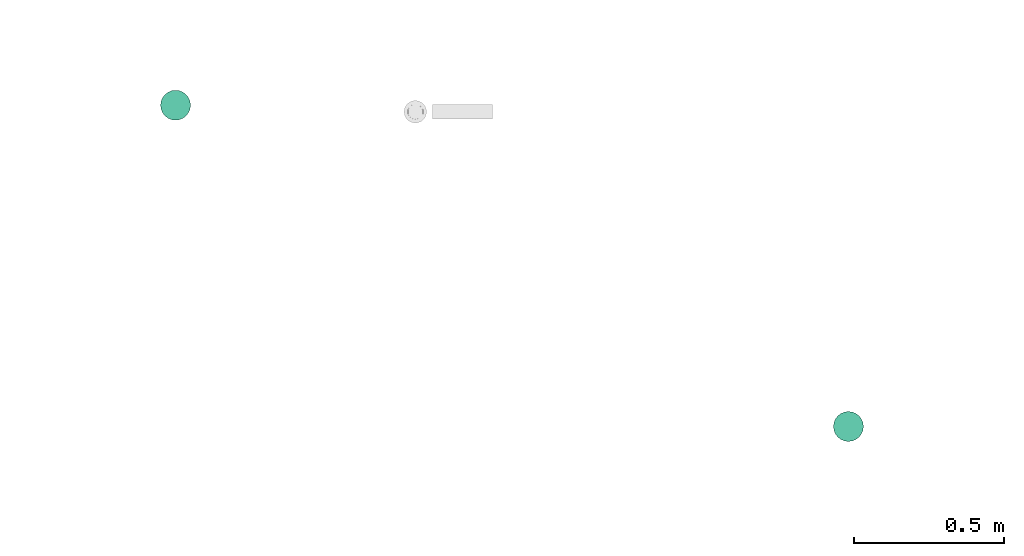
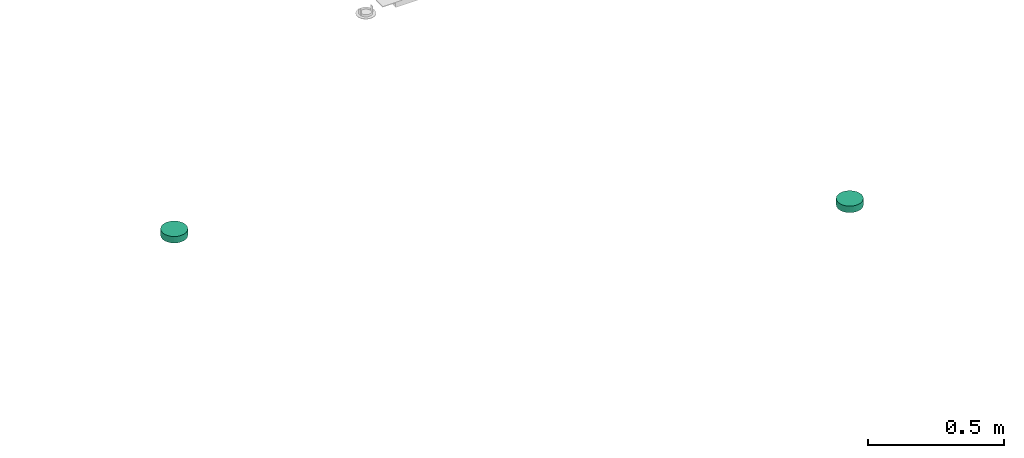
# One storey, part 4 of 7: 2 distribution control elements.
"""IFC2X3 building model written with IfcOpenShell, lengths in millimetres."""

import ifcopenshell
import ifcopenshell.guid

model = None  # the IFC model being written
_history = None  # IfcOwnerHistory: only IFC2X3 demands one
_inside = {}  # id of a spatial element -> (the spatial element, [elements in it])
_under = {}  # id of a project, library or spatial element -> (it, [spatial elements below it])
_declared = {}  # id of a project -> (the project, [libraries it declares])
_typed = {}  # id of a type object -> (the type object, [elements of that type])
_made_of = {}  # id of a material, layer set ... -> (it, [elements and type objects made of it])


def new_model(schema):
    """Start an empty IFC model of exactly this schema.

    Asked for "IFC4X3", IfcOpenShell would pick the latest addendum, in which some entities
    have other attributes; the version numbers below select the first issue.
    IFC2X3 requires an IfcOwnerHistory on every rooted entity: one is made here for all.
    """
    global model, _history
    if schema == "IFC4X3":
        model = ifcopenshell.file(schema_version=(4, 3, 0, 0))
    else:
        model = ifcopenshell.file(schema=schema)
    _inside.clear()
    _under.clear()
    _declared.clear()
    _typed.clear()
    _made_of.clear()
    _history = None
    if model.schema == "IFC2X3":
        org = make("IfcOrganization", Name="unknown")
        user = make(
            "IfcPersonAndOrganization",
            ThePerson=make("IfcPerson", FamilyName="unknown"),
            TheOrganization=org,
        )
        app = make(
            "IfcApplication",
            ApplicationDeveloper=org,
            Version="unknown",
            ApplicationFullName="unknown",
            ApplicationIdentifier="unknown",
        )
        _history = make(
            "IfcOwnerHistory",
            OwningUser=user,
            OwningApplication=app,
            ChangeAction="ADDED",
            CreationDate=0,
        )
    return model


def make(cls, **values):
    """One entity of the class cls with the attributes given. An attribute that is None is left unset."""
    return model.create_entity(
        cls, **{name: value for name, value in values.items() if value is not None}
    )


def entity(cls, *values):
    """Any entity or typed value of the class cls, its attributes in the order of the schema. None: left unset."""
    e = model.create_entity(cls)
    for i, value in enumerate(values):
        if value is not None:
            e[i] = value
    return e


def rooted(cls, **values):
    """An entity with a GlobalId (a new one), such as an element, a storey or a relation."""
    return make(cls, GlobalId=ifcopenshell.guid.new(), OwnerHistory=_history, **values)


def si_unit(unit_type, name, prefix=None):
    """IfcSIUnit, for example si_unit("LENGTHUNIT", "METRE", prefix="MILLI")."""
    return make("IfcSIUnit", UnitType=unit_type, Prefix=prefix, Name=name)


def converted_unit(unit_type, name, factor, base, dimensions=None, offset=None):
    """IfcConversionBasedUnit, such as the inch: factor (a typed value) times the base unit."""
    return make(
        "IfcConversionBasedUnit"
        if offset is None
        else "IfcConversionBasedUnitWithOffset",
        ConversionOffset=offset,
        Dimensions=None
        if dimensions is None
        else entity("IfcDimensionalExponents", *dimensions),
        UnitType=unit_type,
        Name=name,
        ConversionFactor=make(
            "IfcMeasureWithUnit", ValueComponent=factor, UnitComponent=base
        ),
    )


def derived_unit(unit_type, elements):
    """IfcDerivedUnit: a product of units, each with its exponent."""
    return make(
        "IfcDerivedUnit",
        Elements=[
            make("IfcDerivedUnitElement", Unit=unit, Exponent=power)
            for unit, power in elements
        ],
        UnitType=unit_type,
    )


def assignment(units):
    """IfcUnitAssignment: the units of a project."""
    return None if units is None else make("IfcUnitAssignment", Units=units)


def point(xyz):
    """IfcCartesianPoint."""
    return None if xyz is None else make("IfcCartesianPoint", Coordinates=xyz)


def direction(xyz):
    """IfcDirection."""
    return None if xyz is None else make("IfcDirection", DirectionRatios=xyz)


def frame(location, z_axis=None, x_axis=None):
    """IfcAxis2Placement3D, a coordinate frame: its origin and axes. An axis left out is left unset."""
    return make(
        "IfcAxis2Placement3D",
        Location=point(location),
        Axis=direction(z_axis),
        RefDirection=direction(x_axis),
    )


def origin_with_axes():
    """The frame at (0, 0, 0) with the z axis (0, 0, 1) and the x axis (1, 0, 0) written out."""
    return frame((0.0, 0.0, 0.0), z_axis=(0.0, 0.0, 1.0), x_axis=(1.0, 0.0, 0.0))


def place(relative_to, where):
    """IfcLocalPlacement: puts the frame where relative to a parent placement (None: the world)."""
    return make(
        "IfcLocalPlacement", PlacementRelTo=relative_to, RelativePlacement=where
    )


def context(
    kind, dimensions, precision=None, world=None, true_north=None, identifier=None
):
    """IfcGeometricRepresentationContext, for example the 3D "Model" context."""
    return make(
        "IfcGeometricRepresentationContext",
        ContextIdentifier=identifier,
        ContextType=kind,
        CoordinateSpaceDimension=dimensions,
        Precision=precision,
        WorldCoordinateSystem=world,
        TrueNorth=true_north,
    )


def subcontext(parent, identifier, kind, view, scale=None):
    """IfcGeometricRepresentationSubContext, for example "Body" below "Model"."""
    return make(
        "IfcGeometricRepresentationSubContext",
        ContextIdentifier=identifier,
        ContextType=kind,
        ParentContext=parent,
        TargetScale=scale,
        TargetView=view,
    )


def project(units=None, contexts=None):
    """IfcProject with its units and contexts."""
    return rooted(
        "IfcProject",
        Name="project",
        RepresentationContexts=contexts,
        UnitsInContext=assignment(units),
    )


def spatial(cls, under=None, at=None, **own):
    """A site, building, storey or space (cls), placed at a placement, below another one or the project."""
    s = rooted(cls, ObjectPlacement=at, **own)
    if under is not None:
        _under.setdefault(under.id(), (under, []))[1].append(s)
    return s


def faces_of(points, faces, orient=None, outer=None):
    """IfcFace entities. A face is a list of loops; a loop is a list of indices into points, from 0.

    orient and outer hold one flag for each loop. By default every Orientation is true, the
    first loop of a face is its IfcFaceOuterBound and the others are IfcFaceBound.
    """
    made = []
    for i, loops in enumerate(faces):
        bounds = []
        for j, loop in enumerate(loops):
            is_outer = j == 0 if outer is None else outer[i][j]
            bounds.append(
                make(
                    "IfcFaceOuterBound" if is_outer else "IfcFaceBound",
                    Bound=make("IfcPolyLoop", Polygon=[points[k] for k in loop]),
                    Orientation=True if orient is None else orient[i][j],
                )
            )
        made.append(make("IfcFace", Bounds=bounds))
    return made


def open_shell(faces, orient=None, outer=None):
    """The faces of one IfcOpenShell. surface_model builds it on its shared points."""
    return ("IfcOpenShell", faces, orient, outer)


def surface_model(cls, points, shells):
    """IfcFaceBasedSurfaceModel or IfcShellBasedSurfaceModel (cls): surfaces that need not close."""
    shared = [point(p) for p in points]
    made = [make(c, CfsFaces=faces_of(shared, fs, o, b)) for c, fs, o, b in shells]
    if cls == "IfcFaceBasedSurfaceModel":
        return make(cls, FbsmFaces=made)
    return make(cls, SbsmBoundary=made)


def shape(context_of_items, identifier, shape_type, items):
    """IfcShapeRepresentation: the items that make up one representation, for example the "Body"."""
    return make(
        "IfcShapeRepresentation",
        ContextOfItems=context_of_items,
        RepresentationIdentifier=identifier,
        RepresentationType=shape_type,
        Items=items,
    )


def source(mapping_origin, context_of_items, identifier, shape_type, items):
    """IfcRepresentationMap: a shape defined once, which mapped items show again and again."""
    return make(
        "IfcRepresentationMap",
        MappingOrigin=mapping_origin,
        MappedRepresentation=shape(context_of_items, identifier, shape_type, items),
    )


def transform(
    local_origin,
    x_axis=None,
    y_axis=None,
    z_axis=None,
    scale=None,
    scale2=None,
    scale3=None,
    uniform=True,
):
    """IfcCartesianTransformationOperator3D, or its non-uniform kind. x_axis, y_axis, z_axis: its Axis1, 2, 3."""
    if uniform:
        return make(
            "IfcCartesianTransformationOperator3D",
            Axis1=direction(x_axis),
            Axis2=direction(y_axis),
            LocalOrigin=point(local_origin),
            Scale=scale,
            Axis3=direction(z_axis),
        )
    return make(
        "IfcCartesianTransformationOperator3DnonUniform",
        Axis1=direction(x_axis),
        Axis2=direction(y_axis),
        LocalOrigin=point(local_origin),
        Scale=scale,
        Axis3=direction(z_axis),
        Scale2=scale2,
        Scale3=scale3,
    )


def mapped(mapping_source, mapping_target):
    """IfcMappedItem: shows the shape of a source again, moved by a transform."""
    return make(
        "IfcMappedItem", MappingSource=mapping_source, MappingTarget=mapping_target
    )


def made_of(thing, what):
    """Note that an element or type object is made of a material, layer set ...; save() writes the relation."""
    if what is not None:
        _made_of.setdefault(what.id(), (what, []))[1].append(thing)
    return thing


def type_object(cls, material=None, **own):
    """A type object (cls), such as IfcWallType, which elements share."""
    return made_of(rooted(cls, **own), material)


def element(
    cls,
    number,
    at=None,
    inside=None,
    cuts=None,
    type_object=None,
    material=None,
    context=None,
    identifier="Body",
    shape_type=None,
    held_by="IfcProductDefinitionShape",
    body=None,
    shapes=None,
    **own,
):
    """One element of the class cls, such as IfcWall. Its Tag is "e" and its number.

    at: its placement. inside: the storey or other place that contains it. cuts: it is an
    opening in that element (IfcRelVoidsElement). A single representation is given by context,
    identifier, shape_type and body (its items); several are given by shapes. held_by: the class
    of the entity that holds the representations. save() writes the other relations.
    """
    e = rooted(cls, Tag="e%d" % number, ObjectPlacement=at, **own)
    if body is not None:
        shapes = [shape(context, identifier, shape_type, body)]
    if shapes is not None:
        e.Representation = make(held_by, Representations=shapes)
    if inside is not None:
        _inside.setdefault(inside.id(), (inside, []))[1].append(e)
    if cuts is not None:
        rooted(
            "IfcRelVoidsElement", RelatingBuildingElement=cuts, RelatedOpeningElement=e
        )
    if type_object is not None:
        _typed.setdefault(type_object.id(), (type_object, []))[1].append(e)
    return made_of(e, material)


def aggregate(whole, parts):
    """IfcRelAggregates: a whole, such as a stair, and the parts it consists of."""
    return rooted("IfcRelAggregates", RelatingObject=whole, RelatedObjects=parts)


def save(model, path):
    """Write the relations noted so far, then the file.

    IfcRelAggregates (storeys below a building ...), IfcRelContainedInSpatialStructure (elements
    in a storey), IfcRelDefinesByType, IfcRelAssociatesMaterial and IfcRelDeclares: one each for
    every whole, place, type object, material and project.
    """
    for whole, parts in _under.values():
        aggregate(whole, parts)
    for where, things in _inside.values():
        rooted(
            "IfcRelContainedInSpatialStructure",
            RelatedElements=things,
            RelatingStructure=where,
        )
    for kind, things in _typed.values():
        rooted("IfcRelDefinesByType", RelatedObjects=things, RelatingType=kind)
    for what, things in _made_of.values():
        rooted("IfcRelAssociatesMaterial", RelatedObjects=things, RelatingMaterial=what)
    for by, libraries in _declared.values():
        rooted("IfcRelDeclares", RelatingContext=by, RelatedDefinitions=libraries)
    model.write(path)


model = new_model("IFC2X3")

# Units and contexts
model_context = context("Model", 3, precision=0.01, world=frame((0.0, 4.29681676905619e-09, 0.0)), true_north=direction((4.01073788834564e-13, 1.0)))
plan_context = context("Plan", 3, precision=0.01, world=frame((0.0, 4.29681676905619e-09, 0.0)), true_north=direction((4.01073788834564e-13, 1.0)))
body_context = subcontext(model_context, "Body", "Model", "MODEL_VIEW")
ifc_project = project(units=[converted_unit("PLANEANGLEUNIT", "DEGREE", entity("IfcPositiveLengthMeasure", 0.0174532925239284), si_unit("PLANEANGLEUNIT", "RADIAN"), dimensions=[0, 0, 0, 0, 0, 0, 0]), si_unit("AREAUNIT", "SQUARE_METRE"), si_unit("LENGTHUNIT", "METRE", prefix="MILLI"), si_unit("MASSUNIT", "GRAM", prefix="KILO"), si_unit("POWERUNIT", "WATT"), si_unit("PRESSUREUNIT", "PASCAL"), si_unit("FORCEUNIT", "NEWTON", prefix="KILO"), si_unit("ELECTRICVOLTAGEUNIT", "VOLT"), si_unit("ELECTRICCURRENTUNIT", "AMPERE"), si_unit("THERMODYNAMICTEMPERATUREUNIT", "DEGREE_CELSIUS"), si_unit("TIMEUNIT", "SECOND"), si_unit("VOLUMEUNIT", "CUBIC_METRE"), derived_unit("LINEARVELOCITYUNIT", [(si_unit("LENGTHUNIT", "METRE"), 1), (si_unit("TIMEUNIT", "SECOND"), -1)]), derived_unit("VOLUMETRICFLOWRATEUNIT", [(si_unit("VOLUMEUNIT", "CUBIC_METRE"), 1), (si_unit("TIMEUNIT", "SECOND"), -1)]), derived_unit("THERMALTRANSMITTANCEUNIT", [(si_unit("POWERUNIT", "WATT"), 1), (si_unit("THERMODYNAMICTEMPERATUREUNIT", "KELVIN"), -1), (si_unit("AREAUNIT", "SQUARE_METRE"), -1)]), derived_unit("SOUNDPRESSUREUNIT", [(si_unit("PRESSUREUNIT", "PASCAL"), 1)])], contexts=[model_context, plan_context])

# Site, building, storey
site_placement = place(None, frame((0.0, -4.29681676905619e-09, 0.0), z_axis=(0.0, 0.0, 1.0), x_axis=(1.0, 0.0, 0.0)))
site = spatial("IfcSite", under=ifc_project, at=site_placement, Name="ENGM", CompositionType="ELEMENT")
building_placement = place(site_placement, frame((0.0, 4.29681676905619e-09, 0.0), z_axis=(0.0, 0.0, 1.0), x_axis=(1.0, 0.0, 0.0)))
building = spatial("IfcBuilding", under=site, at=building_placement, Name="TH", CompositionType="ELEMENT")
storey_placement = place(building_placement, frame((0.0, 0.0, 210900.0), z_axis=(0.0, 0.0, 1.0), x_axis=(1.0, 0.0, 0.0)))
storey = spatial("IfcBuildingStorey", under=building, at=storey_placement, Name="Nivå F", CompositionType="ELEMENT", Elevation=210900.0)

# Distribution control elements
alarm_type_1 = type_object("IfcAlarmType", Name="Optisk Røykdetektor", PredefinedType="NOTDEFINED")
shared_shape = source(origin_with_axes(), body_context, "Body", "SurfaceModel", [
    surface_model("IfcShellBasedSurfaceModel", [(-25.0, 43.30127, -28.9), (-35.35534, 35.35534, -28.9), (-18.0, 31.17691, -28.9), (-25.45584, 25.45584, -28.9), (-9.31749, 34.77333, -28.9), (-12.94095, 48.29629, -28.9), (0.0, 36.0, -28.9), (0.0, 50.0, -28.9), (-34.77333, 9.31749, -28.9), (-43.30127, 25.0, -28.9), (-48.29629, 12.94095, -28.9), (-36.0, 0.0, -28.9), (-50.0, 0.0, -28.9), (-31.17691, 18.0, -28.9), (9.31749, 34.77333, -28.9), (12.94095, 48.29629, -28.9), (18.0, 31.17691, -28.9), (35.35534, 35.35534, -28.9), (25.0, 43.30127, -28.9), (25.45584, 25.45584, -28.9), (31.17691, 18.0, -28.9), (34.77333, 9.31749, -28.9), (43.30127, 25.0, -28.9), (48.29629, 12.94095, -28.9), (36.0, 0.0, -28.9), (50.0, 0.0, -28.9), (-34.77333, -9.31749, -28.9), (-48.29629, -12.94095, -28.9), (-31.17691, -18.0, -28.9), (-43.30127, -25.0, -28.9), (-25.45584, -25.45584, -28.9), (-35.35534, -35.35534, -28.9), (-18.0, -31.17691, -28.9), (-25.0, -43.30127, -28.9), (-9.31749, -34.77333, -28.9), (-12.94095, -48.29629, -28.9), (0.0, -36.0, -28.9), (0.0, -50.0, -28.9), (43.30127, -25.0, -28.9), (31.17691, -18.0, -28.9), (35.35534, -35.35534, -28.9), (34.77333, -9.31749, -28.9), (48.29629, -12.94095, -28.9), (25.45584, -25.45584, -28.9), (9.31749, -34.77333, -28.9), (12.94095, -48.29629, -28.9), (18.0, -31.17691, -28.9), (25.0, -43.30127, -28.9), (-25.0, -43.30127, -29.1), (-35.35534, -35.35534, -29.1), (-18.0, -31.17691, -29.1), (-25.45584, -25.45584, -29.1), (-9.31749, -34.77333, -29.1), (-12.94095, -48.29629, -29.1), (0.0, -36.0, -29.1), (0.0, -50.0, -29.1), (-34.77333, -9.31749, -29.1), (-43.30127, -25.0, -29.1), (-48.29629, -12.94095, -29.1), (-36.0, 0.0, -29.1), (-50.0, 0.0, -29.1), (-31.17691, -18.0, -29.1), (9.31749, -34.77333, -29.1), (12.94095, -48.29629, -29.1), (18.0, -31.17691, -29.1), (35.35534, -35.35534, -29.1), (25.0, -43.30127, -29.1), (25.45584, -25.45584, -29.1), (31.17691, -18.0, -29.1), (34.77333, -9.31749, -29.1), (43.30127, -25.0, -29.1), (48.29629, -12.94095, -29.1), (36.0, 0.0, -29.1), (50.0, 0.0, -29.1), (-34.77333, 9.31749, -29.1), (-48.29629, 12.94095, -29.1), (-31.17691, 18.0, -29.1), (-43.30127, 25.0, -29.1), (-25.45584, 25.45584, -29.1), (-35.35534, 35.35534, -29.1), (-18.0, 31.17691, -29.1), (-25.0, 43.30127, -29.1), (-9.31749, 34.77333, -29.1), (-12.94095, 48.29629, -29.1), (0.0, 36.0, -29.1), (0.0, 50.0, -29.1), (43.30127, 25.0, -29.1), (31.17691, 18.0, -29.1), (35.35534, 35.35534, -29.1), (34.77333, 9.31749, -29.1), (48.29629, 12.94095, -29.1), (25.45584, 25.45584, -29.1), (9.31749, 34.77333, -29.1), (12.94095, 48.29629, -29.1), (18.0, 31.17691, -29.1), (25.0, 43.30127, -29.1), (6.47048, -24.14815, -44.9), (12.5, -21.65064, -44.9), (17.67767, -17.67767, -44.9), (24.14815, -6.47048, -44.9), (-24.14815, -6.47048, -44.9), (21.65064, -12.5, -44.9), (-21.65064, 12.5, -44.9), (0.0, -25.0, -44.9), (-12.5, -21.65064, -44.9), (-6.47048, -24.14815, -44.9), (-17.67767, -17.67767, -44.9), (-21.65064, -12.5, -44.9), (25.0, 0.0, -44.9), (24.14815, 6.47048, -44.9), (21.65064, 12.5, -44.9), (17.67767, 17.67767, -44.9), (12.5, 21.65064, -44.9), (6.47048, 24.14815, -44.9), (0.0, 25.0, -44.9), (-25.0, 0.0, -44.9), (-24.14815, 6.47048, -44.9), (-12.5, 21.65064, -44.9), (-17.67767, 17.67767, -44.9), (-6.47048, 24.14815, -44.9), (0.0, 25.0, -45.1), (6.47048, 24.14815, -45.1), (12.5, 21.65064, -45.1), (-21.65064, 12.5, -45.1), (17.67767, 17.67767, -45.1), (21.65064, 12.5, -45.1), (24.14815, 6.47048, -45.1), (-12.5, 21.65064, -45.1), (-17.67767, 17.67767, -45.1), (-6.47048, 24.14815, -45.1), (-25.0, 0.0, -45.1), (-24.14815, 6.47048, -45.1), (-24.14815, -6.47048, -45.1), (24.14815, -6.47048, -45.1), (6.47048, -24.14815, -45.1), (21.65064, -12.5, -45.1), (17.67767, -17.67767, -45.1), (12.5, -21.65064, -45.1), (-12.5, -21.65064, -45.1), (-17.67767, -17.67767, -45.1), (-21.65064, -12.5, -45.1), (0.0, -25.0, -45.1), (-6.47048, -24.14815, -45.1), (25.0, 0.0, -45.1), (-1.46739, 34.60682, -29.0), (0.0, 34.8, -29.0), (0.0, 35.0, -29.0), (-34.60682, 1.46739, -29.0), (-35.0, 0.0, -29.0), (-34.8, 0.0, -29.0), (-17.5, 30.31089, -29.0), (-18.5742, 29.23669, -29.0), (-17.4, 30.13768, -29.0), (-24.60732, -24.60732, -29.0), (-18.5742, -29.23669, -29.0), (-29.23669, -18.5742, -29.0), (34.8, 0.0, -29.0), (34.60682, -1.46739, -29.0), (35.0, 0.0, -29.0), (17.4, 30.13768, -29.0), (17.5, 30.31089, -29.0), (16.03261, 30.70407, -29.0), (30.13768, 17.4, -29.0), (30.31089, 17.5, -29.0), (29.23669, 18.5742, -29.0), (34.60682, 1.46739, -29.0), (33.61422, -9.0069, -29.0), (30.70407, -16.03261, -29.0), (-33.61422, -9.0069, -29.0), (-30.70407, -16.03261, -29.0), (-34.60682, -1.46739, -29.0), (-30.13768, -17.4, -29.0), (-30.31089, -17.5, -29.0), (-17.5, -30.31089, -29.0), (-17.4, -30.13768, -29.0), (-1.46739, -34.60682, -29.0), (0.0, -35.0, -29.0), (0.0, -34.8, -29.0), (-16.03261, -30.70407, -29.0), (-9.0069, -33.61422, -29.0), (1.46739, -34.60682, -29.0), (30.13768, -17.4, -29.0), (29.23669, -18.5742, -29.0), (30.31089, -17.5, -29.0), (24.60732, -24.60732, -29.0), (18.5742, -29.23669, -29.0), (9.0069, -33.61422, -29.0), (16.03261, -30.70407, -29.0), (-30.13768, 17.4, -29.0), (-30.31089, 17.5, -29.0), (-30.70407, 16.03261, -29.0), (17.4, -30.13768, -29.0), (17.5, -30.31089, -29.0), (-33.61422, 9.0069, -29.0), (-29.23669, 18.5742, -29.0), (-24.60732, 24.60732, -29.0), (-16.03261, 30.70407, -29.0), (-9.0069, 33.61422, -29.0), (1.46739, 34.60682, -29.0), (9.0069, 33.61422, -29.0), (18.5742, 29.23669, -29.0), (24.60732, 24.60732, -29.0), (30.70407, 16.03261, -29.0), (33.61422, 9.0069, -29.0), (23.00389, 18.55381, -38.25), (14.9, 25.80756, -38.25), (21.07178, 21.07178, -38.25), (29.66376, 1.03484, -38.25), (30.0, 0.0, -38.25), (29.8, 0.0, -38.25), (24.27051, 17.63356, -38.25), (24.68215, 16.36666, -38.25), (10.52665, 27.61906, -38.25), (28.78459, 7.71281, -38.25), (-10.52665, 27.61906, -38.25), (-23.00389, 18.55381, -38.25), (-14.9, 25.80756, -38.25), (8.32335, 28.5317, -38.25), (0.0, 29.8, -38.25), (7.71281, 28.78459, -38.25), (-8.32335, 28.5317, -38.25), (-24.68215, 16.36666, -38.25), (-28.78459, 7.71281, -38.25), (-25.80756, 14.9, -38.25), (-9.27051, 28.5317, -38.25), (-29.66376, 1.03484, -38.25), (-29.8, 0.0, -38.25), (-30.0, 0.0, -38.25), (-28.78459, -7.71281, -38.25), (-24.68215, -16.36666, -38.25), (-25.80756, -14.9, -38.25), (29.66376, -1.03484, -38.25), (-7.71281, 28.78459, -38.25), (25.80756, 14.9, -38.25), (14.9, -25.80756, -38.25), (10.52665, -27.61906, -38.25), (23.00389, -18.55381, -38.25), (28.78459, -7.71281, -38.25), (24.68215, -16.36666, -38.25), (0.0, -29.8, -38.25), (-7.71281, -28.78459, -38.25), (-8.32335, -28.5317, -38.25), (8.32335, -28.5317, -38.25), (9.27051, 28.5317, -38.25), (-29.66376, -1.03484, -38.25), (21.07178, -21.07178, -38.25), (-23.00389, -18.55381, -38.25), (-24.27051, -17.63356, -38.25), (-9.27051, -28.5317, -38.25), (-10.52665, -27.61906, -38.25), (-21.07178, -21.07178, -38.25), (-14.9, -25.80756, -38.25), (9.27051, -28.5317, -38.25), (7.71281, -28.78459, -38.25), (24.27051, -17.63356, -38.25), (25.80756, -14.9, -38.25), (-21.07178, 21.07178, -38.25), (-24.27051, 17.63356, -38.25), (33.28589, -6.39713, -29.0), (27.13526, -8.81678, -38.25), (-16.77051, -23.08263, -38.25), (-23.90544, -23.90544, -29.0), (-27.13526, -8.81678, -38.25), (-33.28589, -6.39713, -29.0), (16.77051, -23.08263, -38.25), (8.75, -32.65544, -29.0), (0.0, -28.5317, -38.25), (23.90544, -23.90544, -29.0), (-8.75, -32.65544, -29.0), (-33.28589, 6.39713, -29.0), (-27.13526, 8.81678, -38.25), (16.77051, 23.08263, -38.25), (23.90544, 23.90544, -29.0), (27.13526, 8.81678, -38.25), (33.28589, 6.39713, -29.0), (-16.77051, 23.08263, -38.25), (-8.75, 32.65544, -29.0), (0.0, 28.5317, -38.25), (-23.90544, 23.90544, -29.0), (8.75, 32.65544, -29.0), (12.4, 21.47743, -45.0), (17.53625, 17.53625, -45.0), (19.07577, 15.5299, -45.0), (20.22543, 14.69463, -45.0), (20.59905, 13.54472, -45.0), (24.66376, 1.03484, -45.0), (25.0, 0.0, -45.0), (24.8, 0.0, -45.0), (8.88673, 22.93267, -45.0), (23.95496, 6.41871, -45.0), (-8.88673, 22.93267, -45.0), (-19.07577, 15.5299, -45.0), (-12.4, 21.47743, -45.0), (6.84976, 23.77641, -45.0), (0.0, 24.8, -45.0), (6.41871, 23.95496, -45.0), (-7.72542, 23.77641, -45.0), (-6.84976, 23.77641, -45.0), (-21.47743, 12.4, -45.0), (-20.59905, 13.54472, -45.0), (-23.95496, 6.41871, -45.0), (-25.0, 0.0, -45.0), (-24.66376, 1.03484, -45.0), (-24.8, 0.0, -45.0), (-23.95496, -6.41871, -45.0), (-20.59905, -13.54472, -45.0), (-21.47743, -12.4, -45.0), (-6.41871, 23.95496, -45.0), (24.66376, -1.03484, -45.0), (21.47743, 12.4, -45.0), (12.4, -21.47743, -45.0), (8.88673, -22.93267, -45.0), (19.07577, -15.5299, -45.0), (23.95496, -6.41871, -45.0), (20.59905, -13.54472, -45.0), (0.0, -24.8, -45.0), (-6.41871, -23.95496, -45.0), (-6.84976, -23.77641, -45.0), (7.72542, -23.77641, -45.0), (6.84976, -23.77641, -45.0), (7.72542, 23.77641, -45.0), (-24.66376, -1.03484, -45.0), (17.53625, -17.53625, -45.0), (-20.22543, -14.69463, -45.0), (-19.07577, -15.5299, -45.0), (-8.88673, -22.93267, -45.0), (-7.72542, -23.77641, -45.0), (-17.53625, -17.53625, -45.0), (-12.4, -21.47743, -45.0), (6.41871, -23.95496, -45.0), (20.22543, -14.69463, -45.0), (21.47743, -12.4, -45.0), (-17.53625, 17.53625, -45.0), (-20.22543, 14.69463, -45.0), (-22.61271, -7.34732, -45.0), (-13.97542, -19.23552, -45.0), (0.0, -23.77641, -45.0), (21.83768, -9.73262, -45.0), (13.97542, -19.23552, -45.0), (23.41884, -4.86631, -45.0), (22.61271, 7.34732, -45.0), (13.97542, 19.23552, -45.0), (0.0, 23.77641, -45.0), (-21.83768, 9.73262, -45.0), (-13.97542, 19.23552, -45.0), (-23.41884, 4.86631, -45.0), (12.94095, -48.29629, 0.0), (25.0, -43.30127, 0.0), (35.35534, -35.35534, 0.0), (48.29629, -12.94095, 0.0), (-48.29629, -12.94095, 0.0), (43.30127, -25.0, 0.0), (-43.30127, 25.0, 0.0), (0.0, -50.0, 0.0), (-25.0, -43.30127, 0.0), (-12.94095, -48.29629, 0.0), (-35.35534, -35.35534, 0.0), (-43.30127, -25.0, 0.0), (50.0, 0.0, 0.0), (48.29629, 12.94095, 0.0), (43.30127, 25.0, 0.0), (35.35534, 35.35534, 0.0), (25.0, 43.30127, 0.0), (12.94095, 48.29629, 0.0), (0.0, 50.0, 0.0), (-50.0, 0.0, 0.0), (-48.29629, 12.94095, 0.0), (-25.0, 43.30127, 0.0), (-35.35534, 35.35534, 0.0), (-12.94095, 48.29629, 0.0), (0.0, 50.0, -29.0), (12.94095, 48.29629, -29.0), (25.0, 43.30127, -29.0), (-43.30127, 25.0, -29.0), (35.35534, 35.35534, -29.0), (43.30127, 25.0, -29.0), (48.29629, 12.94095, -29.0), (-25.0, 43.30127, -29.0), (-35.35534, 35.35534, -29.0), (-12.94095, 48.29629, -29.0), (-50.0, 0.0, -29.0), (-48.29629, 12.94095, -29.0), (-48.29629, -12.94095, -29.0), (48.29629, -12.94095, -29.0), (12.94095, -48.29629, -29.0), (43.30127, -25.0, -29.0), (35.35534, -35.35534, -29.0), (25.0, -43.30127, -29.0), (-25.0, -43.30127, -29.0), (-35.35534, -35.35534, -29.0), (-43.30127, -25.0, -29.0), (0.0, -50.0, -29.0), (-12.94095, -48.29629, -29.0), (50.0, 0.0, -29.0)], [open_shell([[[0, 1, 2]], [[2, 1, 3]], [[0, 2, 4]], [[5, 4, 6]], [[4, 5, 0]], [[5, 6, 7]], [[8, 9, 10]], [[11, 10, 12]], [[8, 10, 11]], [[13, 3, 9]], [[8, 13, 9]], [[9, 3, 1]], [[7, 14, 15]], [[14, 7, 6]], [[15, 14, 16]], [[17, 18, 19]], [[16, 18, 15]], [[19, 18, 16]], [[20, 21, 22]], [[20, 22, 17]], [[21, 23, 22]], [[23, 21, 24]], [[23, 24, 25]], [[20, 17, 19]], [[26, 12, 27]], [[28, 27, 29]], [[28, 26, 27]], [[30, 28, 29]], [[29, 31, 30]], [[32, 31, 33]], [[31, 32, 30]], [[32, 33, 34]], [[34, 35, 36]], [[35, 34, 33]], [[36, 35, 37]], [[38, 39, 40]], [[41, 39, 42]], [[41, 42, 25]], [[42, 39, 38]], [[39, 43, 40]], [[25, 24, 41]], [[44, 37, 45]], [[37, 44, 36]], [[44, 45, 46]], [[47, 40, 43]], [[47, 46, 45]], [[47, 43, 46]], [[26, 11, 12]], [[48, 49, 50]], [[50, 49, 51]], [[48, 50, 52]], [[53, 52, 54]], [[52, 53, 48]], [[53, 54, 55]], [[56, 57, 58]], [[59, 58, 60]], [[56, 58, 59]], [[61, 51, 57]], [[56, 61, 57]], [[57, 51, 49]], [[55, 62, 63]], [[62, 55, 54]], [[63, 62, 64]], [[65, 66, 67]], [[64, 66, 63]], [[67, 66, 64]], [[68, 69, 70]], [[68, 70, 65]], [[69, 71, 70]], [[71, 69, 72]], [[71, 72, 73]], [[68, 65, 67]], [[74, 60, 75]], [[76, 75, 77]], [[76, 74, 75]], [[78, 76, 77]], [[77, 79, 78]], [[80, 79, 81]], [[79, 80, 78]], [[80, 81, 82]], [[82, 83, 84]], [[83, 82, 81]], [[84, 83, 85]], [[86, 87, 88]], [[89, 87, 90]], [[89, 90, 73]], [[90, 87, 86]], [[87, 91, 88]], [[73, 72, 89]], [[92, 85, 93]], [[85, 92, 84]], [[92, 93, 94]], [[95, 88, 91]], [[95, 94, 93]], [[95, 91, 94]], [[74, 59, 60]], [[11, 59, 8]], [[8, 74, 13]], [[2, 3, 78]], [[76, 3, 13]], [[4, 2, 80]], [[74, 76, 13]], [[8, 59, 74]], [[84, 6, 82]], [[4, 80, 82]], [[80, 2, 78]], [[3, 76, 78]], [[4, 82, 6]], [[14, 92, 16]], [[16, 94, 19]], [[21, 20, 87]], [[91, 20, 19]], [[24, 21, 89]], [[92, 94, 16]], [[14, 84, 92]], [[21, 87, 89]], [[87, 20, 91]], [[19, 94, 91]], [[24, 89, 72]], [[6, 84, 14]], [[24, 72, 41]], [[41, 69, 39]], [[46, 43, 67]], [[68, 43, 39]], [[44, 46, 64]], [[69, 68, 39]], [[41, 72, 69]], [[54, 36, 62]], [[44, 64, 62]], [[64, 46, 67]], [[43, 68, 67]], [[44, 62, 36]], [[34, 52, 32]], [[32, 50, 30]], [[26, 28, 61]], [[51, 28, 30]], [[11, 26, 56]], [[52, 50, 32]], [[34, 54, 52]], [[26, 61, 56]], [[61, 28, 51]], [[30, 50, 51]], [[11, 56, 59]], [[36, 54, 34]], [[58, 27, 60]], [[57, 29, 58]], [[33, 49, 48]], [[57, 49, 31]], [[35, 48, 53]], [[58, 29, 27]], [[27, 12, 60]], [[35, 33, 48]], [[31, 49, 33]], [[31, 29, 57]], [[37, 35, 53]], [[53, 55, 37]], [[63, 45, 55]], [[66, 47, 63]], [[38, 65, 70]], [[66, 65, 40]], [[42, 70, 71]], [[66, 40, 47]], [[47, 45, 63]], [[25, 42, 71]], [[38, 70, 42]], [[38, 40, 65]], [[73, 25, 71]], [[55, 45, 37]], [[90, 23, 73]], [[86, 22, 90]], [[18, 88, 95]], [[86, 88, 17]], [[15, 95, 93]], [[90, 22, 23]], [[23, 25, 73]], [[15, 18, 95]], [[17, 88, 18]], [[17, 22, 86]], [[7, 15, 93]], [[93, 85, 7]], [[83, 5, 85]], [[81, 0, 83]], [[9, 79, 77]], [[81, 79, 1]], [[10, 77, 75]], [[81, 1, 0]], [[0, 5, 83]], [[12, 10, 75]], [[9, 77, 10]], [[9, 1, 79]], [[60, 12, 75]], [[85, 5, 7]], [[96, 97, 98]], [[96, 98, 99]], [[96, 99, 100]], [[99, 98, 101]], [[102, 100, 99]], [[103, 104, 105]], [[103, 96, 104]], [[106, 100, 107]], [[106, 104, 96]], [[100, 106, 96]], [[99, 108, 102]], [[109, 110, 111]], [[109, 111, 112]], [[112, 113, 114]], [[109, 112, 102]], [[102, 112, 114]], [[115, 102, 116]], [[100, 102, 115]], [[102, 117, 118]], [[117, 102, 119]], [[114, 119, 102]], [[102, 108, 109]], [[120, 121, 122]], [[123, 120, 122]], [[124, 125, 126]], [[124, 126, 122]], [[123, 122, 126]], [[127, 123, 128]], [[123, 127, 129]], [[123, 130, 131]], [[123, 129, 120]], [[123, 132, 130]], [[123, 126, 133]], [[132, 123, 133]], [[134, 133, 135]], [[136, 137, 134]], [[136, 134, 135]], [[138, 133, 134]], [[132, 139, 140]], [[132, 133, 139]], [[138, 141, 142]], [[139, 133, 138]], [[134, 141, 138]], [[133, 126, 143]], [[132, 100, 130]], [[140, 107, 132]], [[104, 139, 138]], [[140, 139, 106]], [[105, 138, 142]], [[132, 107, 100]], [[100, 115, 130]], [[105, 104, 138]], [[106, 139, 104]], [[106, 107, 140]], [[103, 105, 142]], [[142, 141, 103]], [[134, 96, 141]], [[137, 97, 134]], [[101, 136, 135]], [[137, 136, 98]], [[99, 135, 133]], [[137, 98, 97]], [[97, 96, 134]], [[108, 99, 133]], [[101, 135, 99]], [[101, 98, 136]], [[143, 108, 133]], [[141, 96, 103]], [[126, 109, 143]], [[125, 110, 126]], [[112, 124, 122]], [[125, 124, 111]], [[113, 122, 121]], [[126, 110, 109]], [[109, 108, 143]], [[113, 112, 122]], [[111, 124, 112]], [[111, 110, 125]], [[114, 113, 121]], [[121, 120, 114]], [[129, 119, 120]], [[127, 117, 129]], [[102, 128, 123]], [[127, 128, 118]], [[116, 123, 131]], [[127, 118, 117]], [[117, 119, 129]], [[115, 116, 131]], [[102, 123, 116]], [[102, 118, 128]], [[130, 115, 131]], [[120, 119, 114]], [[144, 145, 146]], [[147, 148, 149]], [[150, 151, 152]], [[153, 154, 155]], [[156, 157, 158]], [[159, 160, 161]], [[162, 163, 164]], [[156, 158, 165]], [[166, 157, 167]], [[168, 169, 170]], [[170, 149, 148]], [[171, 169, 172]], [[173, 174, 154]], [[175, 176, 177]], [[174, 173, 178]], [[155, 171, 172]], [[179, 175, 178]], [[180, 177, 176]], [[181, 182, 183]], [[181, 183, 167]], [[184, 182, 185]], [[186, 187, 180]], [[188, 189, 190]], [[191, 192, 185]], [[191, 187, 192]], [[193, 147, 190]], [[188, 194, 189]], [[195, 194, 151]], [[152, 196, 150]], [[197, 196, 144]], [[145, 198, 146]], [[199, 198, 161]], [[159, 200, 160]], [[201, 200, 164]], [[162, 202, 163]], [[203, 202, 165]], [[204, 205, 206]], [[207, 208, 209]], [[204, 210, 211]], [[205, 204, 212]], [[213, 207, 211]], [[214, 215, 216]], [[217, 218, 219]], [[218, 217, 220]], [[221, 222, 223]], [[220, 214, 224]], [[225, 226, 227]], [[228, 229, 230]], [[209, 208, 231]], [[218, 220, 232]], [[213, 211, 233]], [[234, 235, 236]], [[237, 238, 231]], [[239, 240, 241]], [[241, 242, 239]], [[243, 212, 217]], [[227, 226, 244]], [[234, 236, 245]], [[229, 246, 247]], [[241, 248, 249]], [[250, 246, 251]], [[228, 244, 229]], [[235, 252, 242]], [[239, 242, 253]], [[236, 238, 254]], [[238, 237, 255]], [[251, 246, 249]], [[216, 215, 256]], [[215, 221, 257]], [[222, 221, 225]], [[208, 158, 258]], [[183, 259, 258]], [[260, 261, 247]], [[172, 262, 247]], [[263, 227, 262]], [[192, 252, 264]], [[260, 248, 173]], [[261, 260, 173]], [[252, 265, 266]], [[227, 263, 148]], [[172, 263, 262]], [[258, 259, 208]], [[254, 267, 264]], [[268, 173, 248]], [[252, 192, 265]], [[192, 264, 267]], [[267, 254, 183]], [[259, 183, 254]], [[268, 266, 176]], [[265, 176, 266]], [[248, 266, 268]], [[172, 247, 261]], [[227, 148, 269]], [[189, 270, 269]], [[271, 272, 210]], [[163, 273, 210]], [[274, 208, 273]], [[150, 224, 275]], [[271, 243, 160]], [[272, 271, 160]], [[224, 276, 277]], [[208, 274, 158]], [[163, 274, 273]], [[269, 270, 227]], [[257, 278, 275]], [[279, 160, 243]], [[224, 150, 276]], [[150, 275, 278]], [[278, 257, 189]], [[270, 189, 257]], [[279, 277, 146]], [[276, 146, 277]], [[243, 277, 279]], [[163, 210, 272]], [[171, 230, 228]], [[168, 228, 226]], [[179, 240, 251]], [[174, 251, 250]], [[153, 250, 230]], [[168, 171, 228]], [[226, 149, 168]], [[251, 174, 179]], [[174, 250, 153]], [[230, 171, 153]], [[240, 179, 177]], [[177, 239, 240]], [[184, 245, 234]], [[191, 234, 253]], [[156, 209, 237]], [[166, 237, 255]], [[181, 255, 245]], [[239, 186, 253]], [[186, 191, 253]], [[177, 186, 239]], [[184, 181, 245]], [[191, 184, 234]], [[181, 166, 255]], [[166, 156, 237]], [[162, 233, 213]], [[203, 213, 209]], [[199, 219, 205]], [[159, 205, 206]], [[201, 206, 233]], [[203, 162, 213]], [[209, 156, 203]], [[205, 159, 199]], [[159, 206, 201]], [[233, 162, 201]], [[219, 199, 145]], [[145, 218, 219]], [[195, 256, 216]], [[152, 216, 232]], [[149, 226, 222]], [[193, 222, 223]], [[188, 223, 256]], [[218, 197, 232]], [[197, 152, 232]], [[145, 197, 218]], [[195, 188, 256]], [[152, 195, 216]], [[188, 193, 223]], [[193, 149, 222]], [[215, 216, 256]], [[221, 222, 225]], [[225, 227, 226]], [[257, 221, 215]], [[216, 215, 214]], [[212, 204, 205]], [[220, 218, 232]], [[218, 220, 217]], [[217, 212, 243]], [[233, 211, 213]], [[208, 207, 209]], [[237, 238, 255]], [[252, 235, 242]], [[218, 217, 219]], [[227, 244, 226]], [[222, 221, 223]], [[228, 229, 244]], [[239, 253, 242]], [[246, 251, 249]], [[249, 248, 241]], [[231, 238, 237]], [[208, 209, 231]], [[251, 246, 250]], [[254, 238, 236]], [[236, 234, 245]], [[214, 220, 224]], [[242, 241, 239]], [[239, 241, 240]], [[246, 229, 247]], [[230, 229, 228]], [[234, 236, 235]], [[205, 204, 206]], [[204, 211, 210]], [[213, 211, 207]], [[280, 281, 282]], [[282, 283, 284]], [[285, 286, 287]], [[280, 282, 288]], [[289, 285, 284]], [[290, 291, 292]], [[293, 294, 295]], [[290, 296, 297]], [[294, 293, 297]], [[298, 299, 300]], [[301, 302, 303]], [[304, 305, 306]], [[294, 297, 307]], [[308, 287, 286]], [[289, 284, 309]], [[310, 311, 312]], [[313, 314, 308]], [[315, 316, 317]], [[311, 318, 319]], [[293, 320, 288]], [[301, 303, 321]], [[310, 312, 322]], [[323, 305, 324]], [[325, 317, 326]], [[327, 324, 328]], [[304, 321, 305]], [[317, 319, 315]], [[315, 319, 329]], [[312, 314, 330]], [[331, 314, 313]], [[328, 324, 325]], [[292, 291, 332]], [[291, 299, 333]], [[300, 299, 302]], [[262, 301, 334]], [[334, 323, 247]], [[248, 335, 326]], [[301, 262, 227]], [[334, 247, 262]], [[260, 323, 335]], [[266, 248, 326]], [[336, 252, 266]], [[252, 336, 318]], [[323, 260, 247]], [[248, 260, 335]], [[254, 337, 259]], [[318, 264, 252]], [[338, 254, 264]], [[339, 286, 208]], [[264, 318, 338]], [[259, 339, 208]], [[338, 330, 254]], [[266, 326, 336]], [[259, 337, 339]], [[337, 254, 330]], [[273, 286, 340]], [[340, 283, 210]], [[243, 341, 320]], [[286, 273, 208]], [[340, 210, 273]], [[271, 283, 341]], [[277, 243, 320]], [[342, 224, 277]], [[224, 342, 296]], [[283, 271, 210]], [[243, 271, 341]], [[257, 343, 270]], [[296, 275, 224]], [[344, 257, 275]], [[345, 301, 227]], [[275, 296, 344]], [[270, 345, 227]], [[344, 333, 257]], [[277, 320, 342]], [[270, 343, 345]], [[343, 257, 333]], [[230, 306, 304]], [[228, 304, 303]], [[240, 316, 328]], [[251, 328, 327]], [[250, 327, 306]], [[228, 230, 304]], [[303, 226, 228]], [[328, 251, 240]], [[251, 327, 250]], [[306, 230, 250]], [[316, 240, 239]], [[239, 315, 316]], [[245, 322, 310]], [[234, 310, 329]], [[209, 287, 313]], [[237, 313, 331]], [[255, 331, 322]], [[315, 253, 329]], [[253, 234, 329]], [[239, 253, 315]], [[255, 322, 245]], [[234, 245, 310]], [[331, 255, 237]], [[237, 209, 313]], [[233, 309, 289]], [[213, 289, 287]], [[219, 295, 280]], [[205, 280, 281]], [[206, 281, 309]], [[213, 233, 289]], [[287, 209, 213]], [[280, 205, 219]], [[205, 281, 206]], [[309, 233, 206]], [[295, 219, 218]], [[218, 294, 295]], [[256, 332, 292]], [[216, 292, 307]], [[226, 303, 300]], [[222, 300, 298]], [[223, 298, 332]], [[294, 232, 307]], [[232, 216, 307]], [[218, 232, 294]], [[223, 332, 256]], [[216, 256, 292]], [[298, 223, 222]], [[222, 226, 300]], [[346, 347, 348]], [[346, 348, 349]], [[346, 349, 350]], [[349, 348, 351]], [[352, 350, 349]], [[353, 354, 355]], [[353, 346, 354]], [[356, 350, 357]], [[356, 354, 346]], [[350, 356, 346]], [[349, 358, 352]], [[359, 360, 361]], [[359, 361, 362]], [[362, 363, 364]], [[359, 362, 352]], [[352, 362, 364]], [[365, 352, 366]], [[350, 352, 365]], [[352, 367, 368]], [[367, 352, 369]], [[364, 369, 352]], [[352, 358, 359]], [[370, 371, 372]], [[373, 370, 372]], [[374, 375, 376]], [[374, 376, 372]], [[373, 372, 376]], [[377, 373, 378]], [[373, 377, 379]], [[373, 380, 381]], [[373, 379, 370]], [[373, 382, 380]], [[373, 376, 383]], [[382, 373, 383]], [[384, 383, 385]], [[386, 387, 384]], [[386, 384, 385]], [[388, 383, 384]], [[382, 389, 390]], [[382, 383, 389]], [[388, 391, 392]], [[389, 383, 388]], [[384, 391, 388]], [[383, 376, 393]], [[382, 350, 380]], [[390, 357, 382]], [[354, 389, 388]], [[390, 389, 356]], [[355, 388, 392]], [[382, 357, 350]], [[350, 365, 380]], [[355, 354, 388]], [[356, 389, 354]], [[356, 357, 390]], [[353, 355, 392]], [[392, 391, 353]], [[384, 346, 391]], [[387, 347, 384]], [[351, 386, 385]], [[387, 386, 348]], [[349, 385, 383]], [[387, 348, 347]], [[347, 346, 384]], [[358, 349, 383]], [[351, 385, 349]], [[351, 348, 386]], [[393, 358, 383]], [[391, 346, 353]], [[376, 359, 393]], [[375, 360, 376]], [[362, 374, 372]], [[375, 374, 361]], [[363, 372, 371]], [[376, 360, 359]], [[359, 358, 393]], [[363, 362, 372]], [[361, 374, 362]], [[361, 360, 375]], [[364, 363, 371]], [[371, 370, 364]], [[369, 370, 379]], [[367, 379, 377]], [[352, 373, 381]], [[366, 381, 380]], [[379, 367, 369]], [[367, 377, 378]], [[367, 378, 368]], [[368, 378, 352]], [[352, 378, 373]], [[352, 381, 366]], [[380, 365, 366]], [[370, 369, 364]]])]),
])
distribution_control_element_1_placement = place(storey_placement, frame((900700.0, 486072.0, 2000.0), z_axis=(0.0, 0.0, 1.0), x_axis=(1.0, 0.0, 0.0)))
element("IfcDistributionControlElement", 1, at=distribution_control_element_1_placement, inside=storey, type_object=alarm_type_1, Name="Optisk Røykdetektor", context=body_context, shape_type="MappedRepresentation", body=[
    mapped(shared_shape, transform((0.0, 0.0, 0.0), scale=1.0)),
])
alarm_type_2 = type_object("IfcAlarmType", Name="Optisk røykdetektor over himling", PredefinedType="NOTDEFINED")
distribution_control_element_2_placement = place(storey_placement, frame((902945.275, 485000.0, 2000.0), z_axis=(0.0, 0.0, 1.0), x_axis=(1.0, 0.0, 0.0)))
element("IfcDistributionControlElement", 2, at=distribution_control_element_2_placement, inside=storey, type_object=alarm_type_2, Name="Optisk røykdetektor over himling", context=body_context, shape_type="MappedRepresentation", body=[
    mapped(shared_shape, transform((0.0, 0.0, 0.0), scale=1.0)),
])

save(model, "model.ifc")
